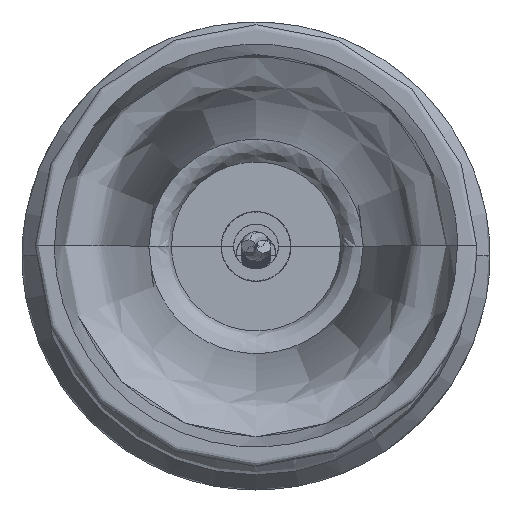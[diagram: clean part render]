
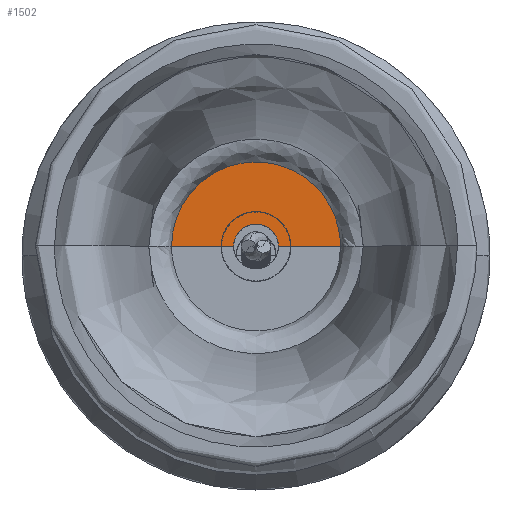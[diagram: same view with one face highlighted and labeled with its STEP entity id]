
A CAD part, top view. The second image highlights one B-rep face of the part: STEP entity #1502.
In plain terms, the highlighted free-form (B-spline) face has degree [2, 1] with [5, 2] control points.
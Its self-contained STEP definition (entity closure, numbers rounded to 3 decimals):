
#1502=ADVANCED_FACE('',(#3340),#24523,.T.);
#3340=FACE_OUTER_BOUND('',#5179,.T.);
#5179=EDGE_LOOP('',(#7218,#7219,#7220,#7221));
#7218=ORIENTED_EDGE('',*,*,#14821,.T.);
#7219=ORIENTED_EDGE('',*,*,#14814,.T.);
#7220=ORIENTED_EDGE('',*,*,#14820,.F.);
#7221=ORIENTED_EDGE('',*,*,#14819,.F.);
#14814=EDGE_CURVE('',#22490,#22488,#18825,.T.);
#14819=EDGE_CURVE('',#22493,#22494,#18826,.T.);
#14820=EDGE_CURVE('',#22494,#22488,#18617,.T.);
#14821=EDGE_CURVE('',#22493,#22490,#18618,.T.);
#18617=(
BOUNDED_CURVE()
B_SPLINE_CURVE(2,(#28459,#28460,#28461,#28462,#28463),.UNSPECIFIED.,.F.,
 .F.)
B_SPLINE_CURVE_WITH_KNOTS((3,2,3),(139.054,208.581,278.108),
 .UNSPECIFIED.)
CURVE()
GEOMETRIC_REPRESENTATION_ITEM()
RATIONAL_B_SPLINE_CURVE((1.,0.707,1.,0.707,1.))
REPRESENTATION_ITEM('')
);
#18618=(
BOUNDED_CURVE()
B_SPLINE_CURVE(2,(#28464,#28465,#28466,#28467,#28468),.UNSPECIFIED.,.F.,
 .F.)
B_SPLINE_CURVE_WITH_KNOTS((3,2,3),(-14.137,-7.069,
0.),.UNSPECIFIED.)
CURVE()
GEOMETRIC_REPRESENTATION_ITEM()
RATIONAL_B_SPLINE_CURVE((1.,0.707,1.,0.707,1.))
REPRESENTATION_ITEM('')
);
#18825=B_SPLINE_CURVE_WITH_KNOTS('',1,(#28400,#28401),.UNSPECIFIED.,.F.,
 .F.,(2,2),(-200.264,-179.526),.UNSPECIFIED.);
#18826=B_SPLINE_CURVE_WITH_KNOTS('',1,(#28457,#28458),.UNSPECIFIED.,.F.,
 .F.,(2,2),(-200.264,-179.526),.UNSPECIFIED.);
#22488=VERTEX_POINT('',#28291);
#22490=VERTEX_POINT('',#28293);
#22493=VERTEX_POINT('',#28296);
#22494=VERTEX_POINT('',#28297);
#24523=(
BOUNDED_SURFACE()
B_SPLINE_SURFACE(2,1,((#28104,#28105),(#28106,#28107),(#28108,#28109),(#28110,
#28111),(#28112,#28113)),.UNSPECIFIED.,.F.,.F.,.F.)
B_SPLINE_SURFACE_WITH_KNOTS((3,2,3),(2,2),(139.054,208.581,
278.108),(-207.748,-179.526),.UNSPECIFIED.)
GEOMETRIC_REPRESENTATION_ITEM()
RATIONAL_B_SPLINE_SURFACE(((1.,1.),(0.707,0.707),
(1.,1.),(0.707,0.707),(1.,1.)))
REPRESENTATION_ITEM('')
SURFACE()
);
#28104=CARTESIAN_POINT('',(0.,0.,1105.183));
#28105=CARTESIAN_POINT('',(-16.969,0.,1105.183));
#28106=CARTESIAN_POINT('',(0.,0.,1105.183));
#28107=CARTESIAN_POINT('',(-16.969,16.969,1105.183));
#28108=CARTESIAN_POINT('',(0.,0.,1105.183));
#28109=CARTESIAN_POINT('',(0.,16.969,1105.183));
#28110=CARTESIAN_POINT('',(0.,0.,1105.183));
#28111=CARTESIAN_POINT('',(16.969,16.969,1105.183));
#28112=CARTESIAN_POINT('',(0.,0.,1105.183));
#28113=CARTESIAN_POINT('',(16.969,0.,1105.183));
#28291=CARTESIAN_POINT('',(16.969,0.,1105.183));
#28293=CARTESIAN_POINT('',(4.5,0.,1105.183));
#28296=CARTESIAN_POINT('',(-4.5,0.,1105.183));
#28297=CARTESIAN_POINT('',(-16.969,0.,1105.183));
#28400=CARTESIAN_POINT('',(4.5,0.,1105.183));
#28401=CARTESIAN_POINT('',(16.969,0.,1105.183));
#28457=CARTESIAN_POINT('',(-4.5,0.,1105.183));
#28458=CARTESIAN_POINT('',(-16.969,0.,1105.183));
#28459=CARTESIAN_POINT('',(-16.969,0.,1105.183));
#28460=CARTESIAN_POINT('',(-16.969,16.969,1105.183));
#28461=CARTESIAN_POINT('',(0.,16.969,1105.183));
#28462=CARTESIAN_POINT('',(16.969,16.969,1105.183));
#28463=CARTESIAN_POINT('',(16.969,0.,1105.183));
#28464=CARTESIAN_POINT('',(-4.5,0.,1105.183));
#28465=CARTESIAN_POINT('',(-4.5,4.5,1105.183));
#28466=CARTESIAN_POINT('',(0.,4.5,1105.183));
#28467=CARTESIAN_POINT('',(4.5,4.5,1105.183));
#28468=CARTESIAN_POINT('',(4.5,0.,1105.183));
